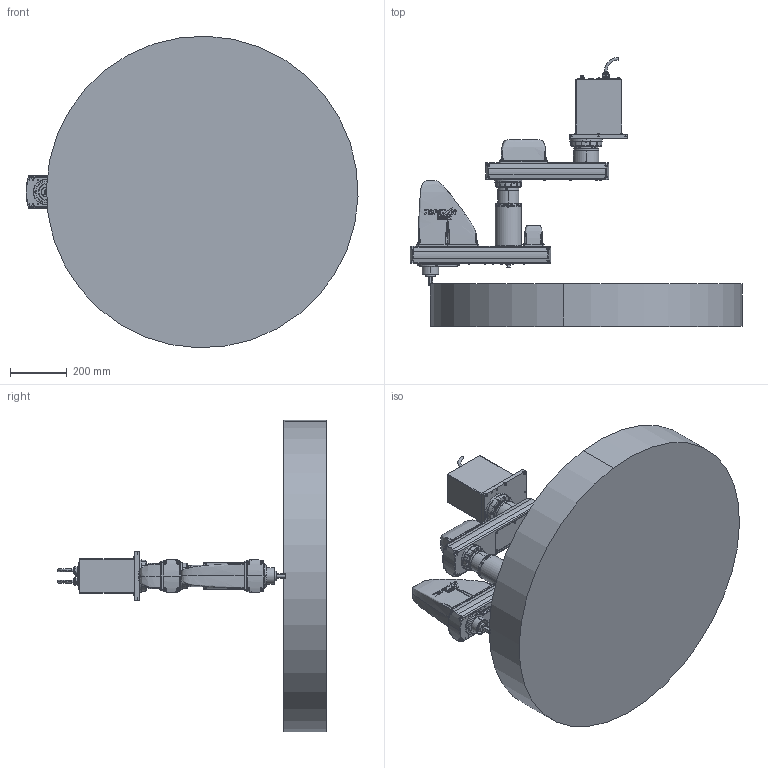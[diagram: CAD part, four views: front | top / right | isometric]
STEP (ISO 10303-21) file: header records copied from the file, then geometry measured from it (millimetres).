
FILE_DESCRIPTION (( 'STEP AP203' ), '1' );
FILE_NAME ('TRD002-550-150-S_机器人(STEP).STEP', '2024-12-10T03:22:01', ( '' ), ( '' ), 'SwSTEP 2.0', 'SolidWorks 2023', '' );
FILE_SCHEMA (( 'CONFIG_CONTROL_DESIGN' ));
Length unit declared in the file: millimetre
Products named in the file (6): TRD002-550-150-S_Space; TRD002-550-150-S_4; TRD002-550-150-S_1; TRD002-550-150-S_机器人(STEP); TRD002-550-150-S_2; TRD002-550-150-S_3.
Assembly tree (5 placements, depth 2):
  TRD002-550-150-S_机器人(STEP)
    TRD002-550-150-S_1
    TRD002-550-150-S_2
    TRD002-550-150-S_3.
    TRD002-550-150-S_4
    TRD002-550-150-S_Space
Bounding box: 1171.78 x 949.4 x 1099.56 mm (x, y, z)
Volume: 155233272.2 mm3; surface area: 3344173.1 mm2
Topology: 4 solids, 214 shells, 5650 faces, 13118 edges, 7997 vertices
Faces by surface type: plane 2586, cylinder 1638, cone 651, bspline 361, torus 268, sphere 146
Full cylindrical faces by diameter (mm): 10.3 x1, 11.8 x1
Entity records: 194013 total; most frequent: CARTESIAN_POINT 66275, DIRECTION 27000, ORIENTED_EDGE 25743, EDGE_CURVE 12880, AXIS2_PLACEMENT_3D 10431, VERTEX_POINT 7992, EDGE_LOOP 6309, VECTOR 6138
